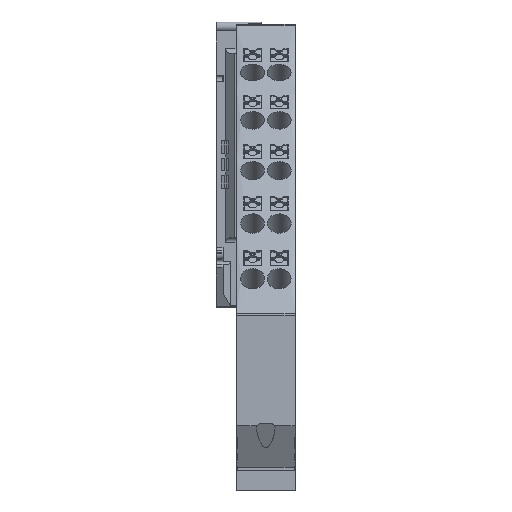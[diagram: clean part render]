
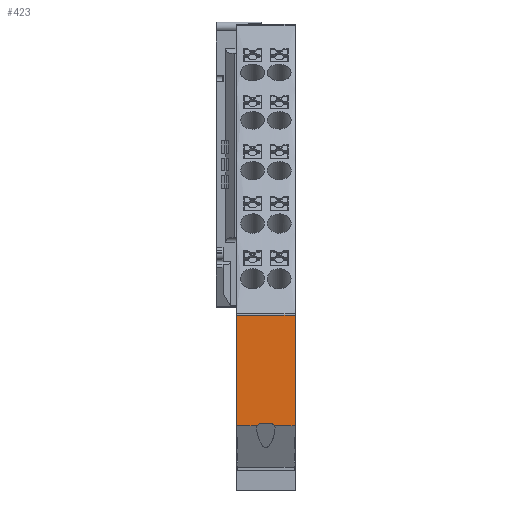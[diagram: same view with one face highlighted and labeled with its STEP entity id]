
A CAD part, front view. The second image highlights one B-rep face of the part: STEP entity #423.
In plain terms, the highlighted planar face has unit normal (0, -1, 0).
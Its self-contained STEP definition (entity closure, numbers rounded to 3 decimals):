
#423 = ADVANCED_FACE( '', ( #1933 ), #1934, .F. );
#1933 = FACE_OUTER_BOUND( '', #4512, .T. );
#1934 = PLANE( '', #4513 );
#4512 = EDGE_LOOP( '', ( #8844, #8845, #8846, #8847, #8848, #8849, #8850, #8851 ) );
#4513 = AXIS2_PLACEMENT_3D( '', #8852, #8853, #8854 );
#8844 = ORIENTED_EDGE( '', *, *, #18777, .T. );
#8845 = ORIENTED_EDGE( '', *, *, #18775, .F. );
#8846 = ORIENTED_EDGE( '', *, *, #18778, .T. );
#8847 = ORIENTED_EDGE( '', *, *, #18779, .T. );
#8848 = ORIENTED_EDGE( '', *, *, #18780, .T. );
#8849 = ORIENTED_EDGE( '', *, *, #18770, .F. );
#8850 = ORIENTED_EDGE( '', *, *, #18781, .F. );
#8851 = ORIENTED_EDGE( '', *, *, #18782, .T. );
#8852 = CARTESIAN_POINT( '', ( 6.15, -40., -12.262 ) );
#8853 = DIRECTION( '', ( 0., 1., 0. ) );
#8854 = DIRECTION( '', ( 0., 0., 1. ) );
#18770 = EDGE_CURVE( '', #23338, #23340, #23341, .T. );
#18775 = EDGE_CURVE( '', #23347, #23349, #23350, .T. );
#18777 = EDGE_CURVE( '', #23352, #23349, #23353, .T. );
#18778 = EDGE_CURVE( '', #23347, #23354, #23355, .T. );
#18779 = EDGE_CURVE( '', #23354, #23356, #23357, .T. );
#18780 = EDGE_CURVE( '', #23356, #23340, #23358, .T. );
#18781 = EDGE_CURVE( '', #23359, #23338, #23360, .T. );
#18782 = EDGE_CURVE( '', #23359, #23352, #23361, .T. );
#23338 = VERTEX_POINT( '', #30540 );
#23340 = VERTEX_POINT( '', #30543 );
#23341 = LINE( '', #30544, #30545 );
#23347 = VERTEX_POINT( '', #30551 );
#23349 = VERTEX_POINT( '', #30553 );
#23350 = LINE( '', #30554, #30555 );
#23352 = VERTEX_POINT( '', #30558 );
#23353 = LINE( '', #30559, #30560 );
#23354 = VERTEX_POINT( '', #30561 );
#23355 = CIRCLE( '', #30562, 1. );
#23356 = VERTEX_POINT( '', #30563 );
#23357 = LINE( '', #30564, #30565 );
#23358 = CIRCLE( '', #30566, 1. );
#23359 = VERTEX_POINT( '', #30567 );
#23360 = LINE( '', #30568, #30569 );
#23361 = LINE( '', #30570, #30571 );
#30540 = CARTESIAN_POINT( '', ( 6.15, -40., -35.5 ) );
#30543 = CARTESIAN_POINT( '', ( 1.83, -40., -35.5 ) );
#30544 = CARTESIAN_POINT( '', ( 6.15, -40., -35.5 ) );
#30545 = VECTOR( '', #38102, 1000. );
#30551 = CARTESIAN_POINT( '', ( -1.83, -40., -35.5 ) );
#30553 = CARTESIAN_POINT( '', ( -6.15, -40., -35.5 ) );
#30554 = CARTESIAN_POINT( '', ( 6.15, -40., -35.5 ) );
#30555 = VECTOR( '', #38115, 1000. );
#30558 = CARTESIAN_POINT( '', ( -6.15, -40., -12.262 ) );
#30559 = CARTESIAN_POINT( '', ( -6.15, -40., -12.262 ) );
#30560 = VECTOR( '', #38117, 1000. );
#30561 = CARTESIAN_POINT( '', ( -0.95, -40., -34.975 ) );
#30562 = AXIS2_PLACEMENT_3D( '', #38118, #38119, #38120 );
#30563 = CARTESIAN_POINT( '', ( 0.95, -40., -34.975 ) );
#30564 = CARTESIAN_POINT( '', ( -0.95, -40., -34.975 ) );
#30565 = VECTOR( '', #38121, 1000. );
#30566 = AXIS2_PLACEMENT_3D( '', #38122, #38123, #38124 );
#30567 = CARTESIAN_POINT( '', ( 6.15, -40., -12.262 ) );
#30568 = CARTESIAN_POINT( '', ( 6.15, -40., -12.262 ) );
#30569 = VECTOR( '', #38125, 1000. );
#30570 = CARTESIAN_POINT( '', ( 6.15, -40., -12.262 ) );
#30571 = VECTOR( '', #38126, 1000. );
#38102 = DIRECTION( '', ( -1., 0., 0. ) );
#38115 = DIRECTION( '', ( -1., 0., 0. ) );
#38117 = DIRECTION( '', ( 0., 0., -1. ) );
#38118 = CARTESIAN_POINT( '', ( -0.95, -40., -35.975 ) );
#38119 = DIRECTION( '', ( 0., 1., 0. ) );
#38120 = DIRECTION( '', ( 1., 0., 0. ) );
#38121 = DIRECTION( '', ( 1., 0., 0. ) );
#38122 = CARTESIAN_POINT( '', ( 0.95, -40., -35.975 ) );
#38123 = DIRECTION( '', ( 0., 1., 0. ) );
#38124 = DIRECTION( '', ( 1., 0., 0. ) );
#38125 = DIRECTION( '', ( 0., 0., -1. ) );
#38126 = DIRECTION( '', ( -1., 0., 0. ) );
